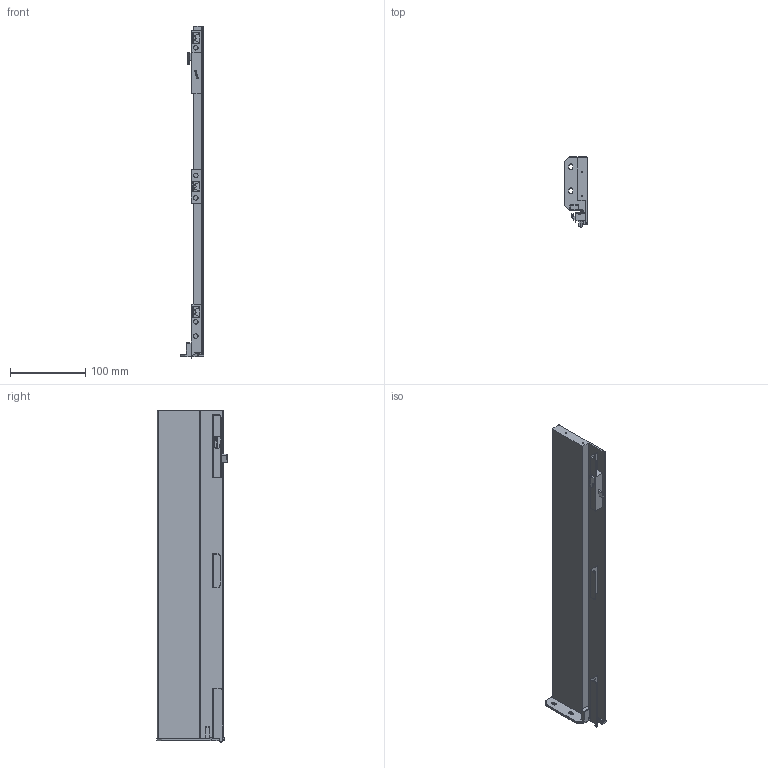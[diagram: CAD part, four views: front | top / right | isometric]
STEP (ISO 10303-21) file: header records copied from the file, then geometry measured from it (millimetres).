
FILE_DESCRIPTION (( 'STEP AP203' ), '1' );
FILE_NAME ('HE114501-R.STEP', '2021-03-30T01:27:18', ( 'Users' ), ( 'Microsoft' ), 'SwSTEP 2.0', 'SolidWorks 2018', '' );
FILE_SCHEMA (( 'CONFIG_CONTROL_DESIGN' ));
Length unit declared in the file: millimetre
Products named in the file (1): HE114501-R
Bounding box: 31 x 93.9 x 442.19 mm (x, y, z)
Volume: 372873.6 mm3; surface area: 102087.4 mm2
Topology: 1 solids, 1 shells, 455 faces, 1131 edges, 676 vertices
Faces by surface type: cylinder 190, plane 162, torus 74, bspline 24, cone 4, sphere 1
Entity records: 13796 total; most frequent: CARTESIAN_POINT 2984, DIRECTION 2327, ORIENTED_EDGE 2242, EDGE_CURVE 1121, AXIS2_PLACEMENT_3D 869, VERTEX_POINT 676, LINE 589, VECTOR 589
